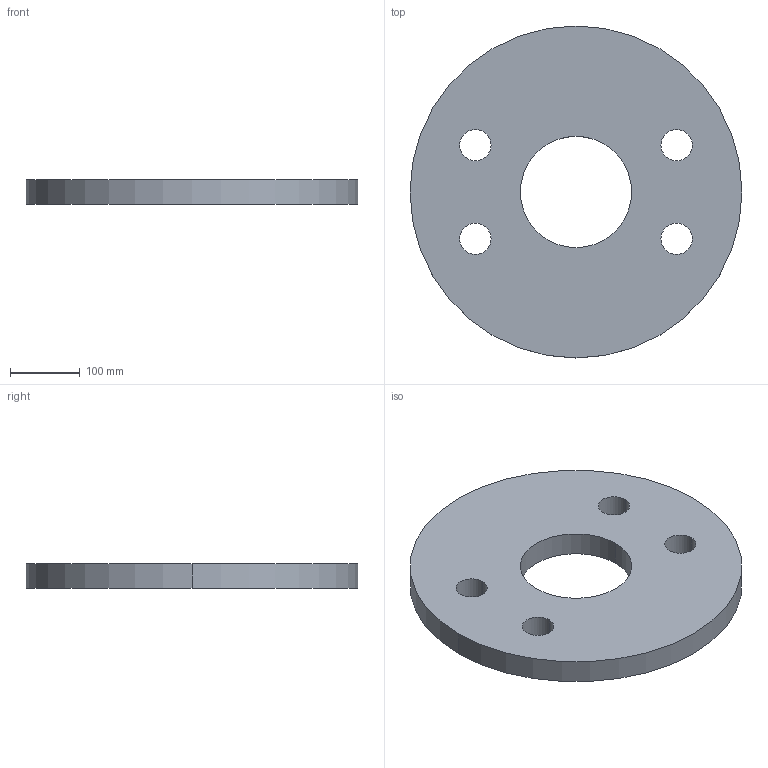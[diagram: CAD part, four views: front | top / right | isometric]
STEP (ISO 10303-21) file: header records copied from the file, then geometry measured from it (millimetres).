
FILE_DESCRIPTION (( 'STEP AP203' ), '1' );
FILE_NAME ('Kreissscheibe M42.STEP', '2018-02-22T05:53:11', ( 'install' ), ( 'Hewlett-Packard Company' ), 'SwSTEP 2.0', 'SolidWorks 2017', '' );
FILE_SCHEMA (( 'CONFIG_CONTROL_DESIGN' ));
Length unit declared in the file: millimetre
Products named in the file (1): Kreissscheibe M42
Bounding box: 477 x 477 x 35 mm (x, y, z)
Volume: 5328152.9 mm3; surface area: 394299.7 mm2
Topology: 1 solids, 1 shells, 14 faces, 36 edges, 24 vertices
Faces by surface type: cylinder 12, plane 2
Entity records: 541 total; most frequent: DIRECTION 90, CARTESIAN_POINT 75, ORIENTED_EDGE 72, AXIS2_PLACEMENT_3D 39, EDGE_CURVE 36, EDGE_LOOP 24, CIRCLE 24, VERTEX_POINT 24
